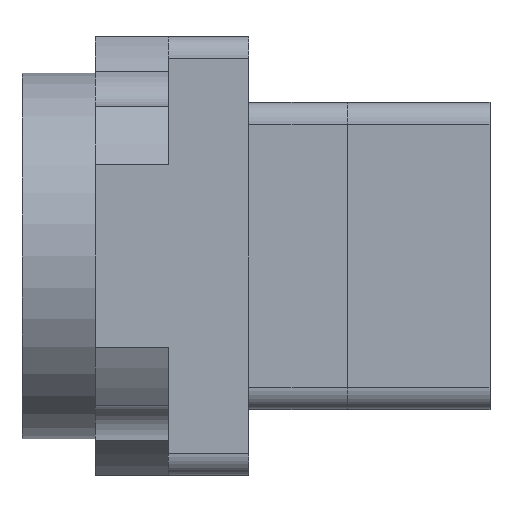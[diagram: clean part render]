
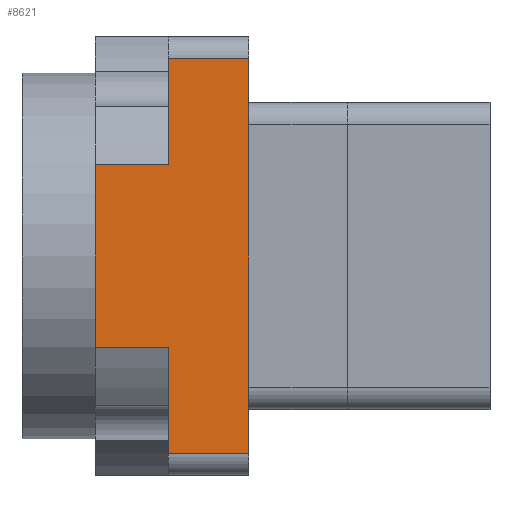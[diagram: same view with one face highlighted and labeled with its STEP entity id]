
A CAD part, left-side view. The second image highlights one B-rep face of the part: STEP entity #8621.
In plain terms, the highlighted planar face has unit normal (-1, 0, 0).
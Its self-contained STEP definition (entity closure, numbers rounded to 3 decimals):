
#186 = CARTESIAN_POINT ( 'NONE',  ( -30., 0., 27. ) ) ;
#196 = CARTESIAN_POINT ( 'NONE',  ( -30., 0., -27. ) ) ;
#1268 = VERTEX_POINT ( 'NONE', #6356 ) ;
#1286 = VECTOR ( 'NONE', #8733, 1000. ) ;
#1289 = VERTEX_POINT ( 'NONE', #6349 ) ;
#1294 = VERTEX_POINT ( 'NONE', #6332 ) ;
#1296 = VERTEX_POINT ( 'NONE', #6318 ) ;
#1311 = LINE ( 'NONE', #8744, #1286 ) ;
#1370 = LINE ( 'NONE', #8868, #1373 ) ;
#1373 = VECTOR ( 'NONE', #8894, 1000. ) ;
#1388 = VERTEX_POINT ( 'NONE', #6383 ) ;
#1422 = VERTEX_POINT ( 'NONE', #6390 ) ;
#1489 = LINE ( 'NONE', #8914, #1552 ) ;
#1511 = LINE ( 'NONE', #8973, #1565 ) ;
#1552 = VECTOR ( 'NONE', #8925, 1000. ) ;
#1565 = VECTOR ( 'NONE', #8954, 1000. ) ;
#1739 = LINE ( 'NONE', #9057, #1802 ) ;
#1742 = VERTEX_POINT ( 'NONE', #196 ) ;
#1745 = VERTEX_POINT ( 'NONE', #186 ) ;
#1802 = VECTOR ( 'NONE', #9059, 1000. ) ;
#1813 = VECTOR ( 'NONE', #9091, 1000. ) ;
#1820 = LINE ( 'NONE', #9123, #1832 ) ;
#1828 = LINE ( 'NONE', #9122, #1813 ) ;
#1832 = VECTOR ( 'NONE', #9132, 1000. ) ;
#3234 = EDGE_LOOP ( 'NONE', ( #5343, #5306, #5307, #5249, #5361, #5345, #5330, #5271 ) ) ;
#5249 = ORIENTED_EDGE ( 'NONE', *, *, #6955, .F. ) ;
#5271 = ORIENTED_EDGE ( 'NONE', *, *, #6990, .F. ) ;
#5306 = ORIENTED_EDGE ( 'NONE', *, *, #6907, .F. ) ;
#5307 = ORIENTED_EDGE ( 'NONE', *, *, #6884, .F. ) ;
#5330 = ORIENTED_EDGE ( 'NONE', *, *, #7051, .F. ) ;
#5343 = ORIENTED_EDGE ( 'NONE', *, *, #6987, .F. ) ;
#5345 = ORIENTED_EDGE ( 'NONE', *, *, #6922, .F. ) ;
#5361 = ORIENTED_EDGE ( 'NONE', *, *, #6834, .F. ) ;
#6318 = CARTESIAN_POINT ( 'NONE',  ( -30., 11., -12.5 ) ) ;
#6332 = CARTESIAN_POINT ( 'NONE',  ( -30., 11., 12.5 ) ) ;
#6349 = CARTESIAN_POINT ( 'NONE',  ( -30., 21., 12.5 ) ) ;
#6356 = CARTESIAN_POINT ( 'NONE',  ( -30., 21., -12.5 ) ) ;
#6383 = CARTESIAN_POINT ( 'NONE',  ( -30., 11., -27. ) ) ;
#6390 = CARTESIAN_POINT ( 'NONE',  ( -30., 11., 27. ) ) ;
#6834 = EDGE_CURVE ( 'NONE', #1296, #1268, #1311, .T. ) ;
#6884 = EDGE_CURVE ( 'NONE', #1289, #1294, #1370, .T. ) ;
#6907 = EDGE_CURVE ( 'NONE', #1294, #1422, #1489, .T. ) ;
#6922 = EDGE_CURVE ( 'NONE', #1388, #1296, #1511, .T. ) ;
#6955 = EDGE_CURVE ( 'NONE', #1268, #1289, #1739, .T. ) ;
#6987 = EDGE_CURVE ( 'NONE', #1422, #1745, #1828, .T. ) ;
#6990 = EDGE_CURVE ( 'NONE', #1745, #1742, #1820, .T. ) ;
#7051 = EDGE_CURVE ( 'NONE', #1742, #1388, #20068, .T. ) ;
#8621 = ADVANCED_FACE ( 'NONE', ( #15975 ), #16989, .F. ) ;
#8733 = DIRECTION ( 'NONE',  ( 0., 1., 0. ) ) ;
#8744 = CARTESIAN_POINT ( 'NONE',  ( -30., 11., -12.5 ) ) ;
#8868 = CARTESIAN_POINT ( 'NONE',  ( -30., 11., 12.5 ) ) ;
#8894 = DIRECTION ( 'NONE',  ( 0., -1., 0. ) ) ;
#8914 = CARTESIAN_POINT ( 'NONE',  ( -30., 11., -27. ) ) ;
#8925 = DIRECTION ( 'NONE',  ( 0., 0., 1. ) ) ;
#8954 = DIRECTION ( 'NONE',  ( 0., 0., 1. ) ) ;
#8973 = CARTESIAN_POINT ( 'NONE',  ( -30., 11., -27. ) ) ;
#9057 = CARTESIAN_POINT ( 'NONE',  ( -30., 21., -27. ) ) ;
#9059 = DIRECTION ( 'NONE',  ( 0., 0., 1. ) ) ;
#9091 = DIRECTION ( 'NONE',  ( 0., -1., 0. ) ) ;
#9122 = CARTESIAN_POINT ( 'NONE',  ( -30., 11., 27. ) ) ;
#9123 = CARTESIAN_POINT ( 'NONE',  ( -30., 0., -18. ) ) ;
#9132 = DIRECTION ( 'NONE',  ( 0., 0., -1. ) ) ;
#9268 = CARTESIAN_POINT ( 'NONE',  ( -30., 11., -27. ) ) ;
#9275 = DIRECTION ( 'NONE',  ( 0., 1., 0. ) ) ;
#15975 = FACE_OUTER_BOUND ( 'NONE', #3234, .T. ) ;
#16562 = AXIS2_PLACEMENT_3D ( 'NONE', #17015, #17045, #17035 ) ;
#16989 = PLANE ( 'NONE',  #16562 ) ;
#17015 = CARTESIAN_POINT ( 'NONE',  ( -30., 11., -27. ) ) ;
#17035 = DIRECTION ( 'NONE',  ( 0., 0., -1. ) ) ;
#17045 = DIRECTION ( 'NONE',  ( 1., 0., 0. ) ) ;
#20068 = LINE ( 'NONE', #9268, #20073 ) ;
#20073 = VECTOR ( 'NONE', #9275, 1000. ) ;
